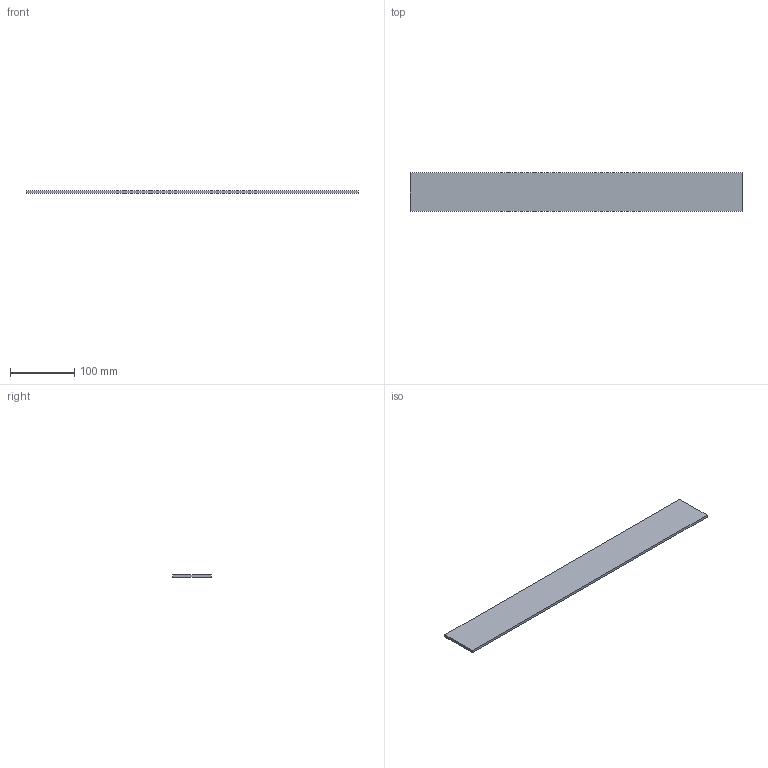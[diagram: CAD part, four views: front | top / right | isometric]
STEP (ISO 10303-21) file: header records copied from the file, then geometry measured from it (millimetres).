
FILE_DESCRIPTION (( 'STEP AP214' ), '1' );
FILE_NAME ('_Variowing Glasdekor NL550.step', '2010-07-14T13:33:38', ( 'grass' ), ( '' ), 'SwSTEP 2.0', 'SolidWorks 2010', '' );
FILE_SCHEMA (( 'AUTOMOTIVE_DESIGN' ));
Length unit declared in the file: millimetre
Products named in the file (1): _Variowing Glasdekor NL550
Bounding box: 515 x 60 x 4 mm (x, y, z)
Volume: 123600 mm3; surface area: 66400 mm2
Topology: 1 solids, 1 shells, 6 faces, 12 edges, 8 vertices
Faces by surface type: plane 6
Entity records: 190 total; most frequent: CARTESIAN_POINT 27, DIRECTION 26, ORIENTED_EDGE 24, VECTOR 12, LINE 12, EDGE_CURVE 12, VERTEX_POINT 8, AXIS2_PLACEMENT_3D 7
